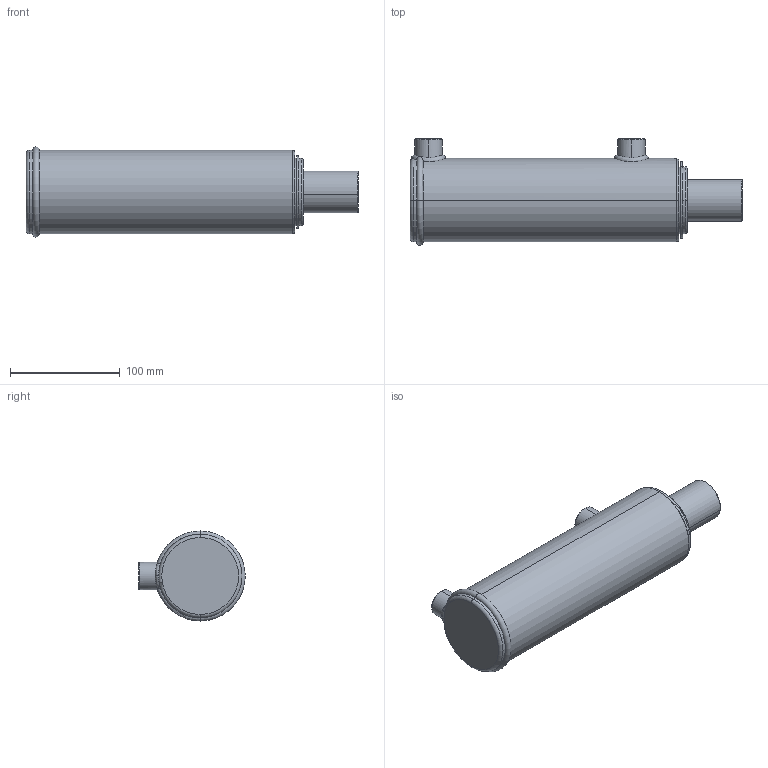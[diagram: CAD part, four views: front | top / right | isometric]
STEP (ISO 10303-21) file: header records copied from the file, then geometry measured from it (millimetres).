
FILE_DESCRIPTION (( 'STEP AP203' ), '1' );
FILE_NAME ('BL250150x152 (6).STEP', '2014-11-23T22:13:23', ( '' ), ( '' ), 'SwSTEP 2.0', 'SolidWorks 2014', '' );
FILE_SCHEMA (( 'CONFIG_CONTROL_DESIGN' ));
Length unit declared in the file: millimetre
Products named in the file (3): BL250150x152 (6); BL body 2.5_2.5x6; Spare_2.5x6
Assembly tree (2 placements, depth 2):
  BL250150x152 (6)
    BL body 2.5_2.5x6
    Spare_2.5x6
Bounding box: 303 x 97.2 x 82.2 mm (x, y, z)
Volume: 1216862.1 mm3; surface area: 143567.7 mm2
Topology: 2 solids, 2 shells, 88 faces, 205 edges, 126 vertices
Faces by surface type: cylinder 32, plane 20, torus 18, bspline 10, cone 8
Entity records: 5772 total; most frequent: CARTESIAN_POINT 3521, DIRECTION 422, ORIENTED_EDGE 402, EDGE_CURVE 201, AXIS2_PLACEMENT_3D 182, VERTEX_POINT 126, EDGE_LOOP 101, CIRCLE 99
